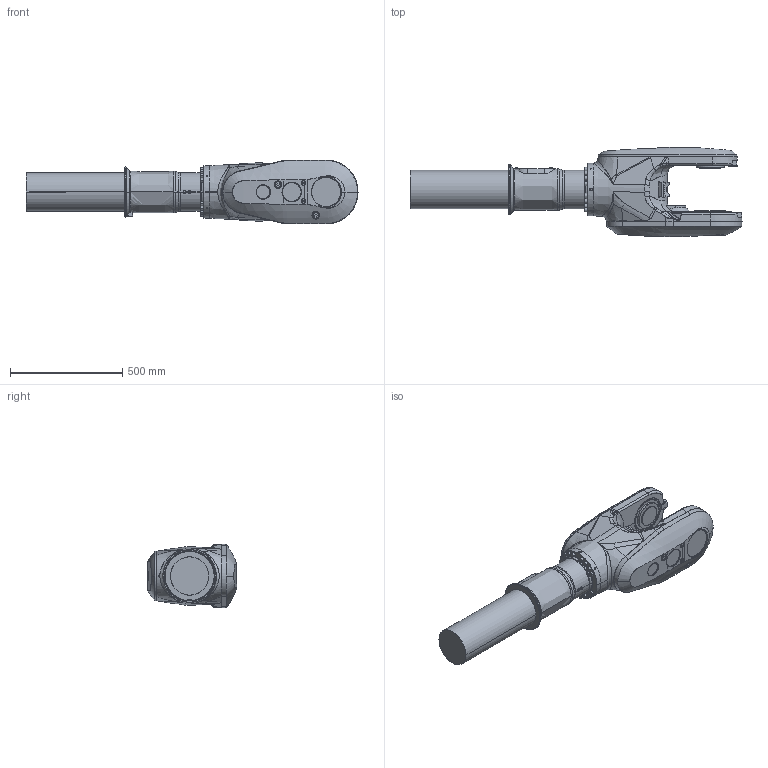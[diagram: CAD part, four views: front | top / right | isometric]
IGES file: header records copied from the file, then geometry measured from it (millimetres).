
Start section: SolidWorks IGES file using analytic representation for surfaces
Global section: file name: C:\DATA\SAP_DOC\LW\IRB 6730\IRB6730-MH3_270kg-270_OC_01_SW_J\Export\IRB6730-MH3_270kg-270_OC_01_IGES_J\IRB6730-MH3_270kg-270_OC_00_LINK04_CAD.igs; native system: SolidWorks 2024; preprocessor: SolidWorks 2024; author: SEJOVAS3; date: 260526.113942; units: millimetre
Bounding box: 1477.5 x 396.47 x 284 mm (x, y, z)
Surface area: 1383060.7 mm2 (no closed solid volume)
Topology: 0 solids, 0 shells, 739 faces, 13548 edges, 13523 vertices
Faces by surface type: bspline 436, revolution 303
